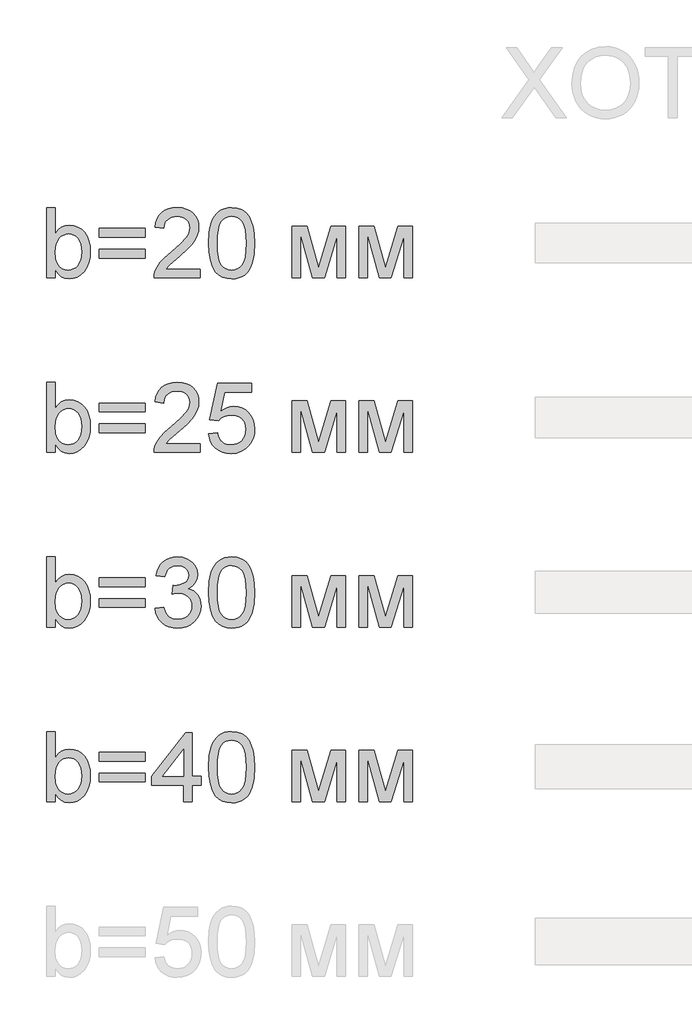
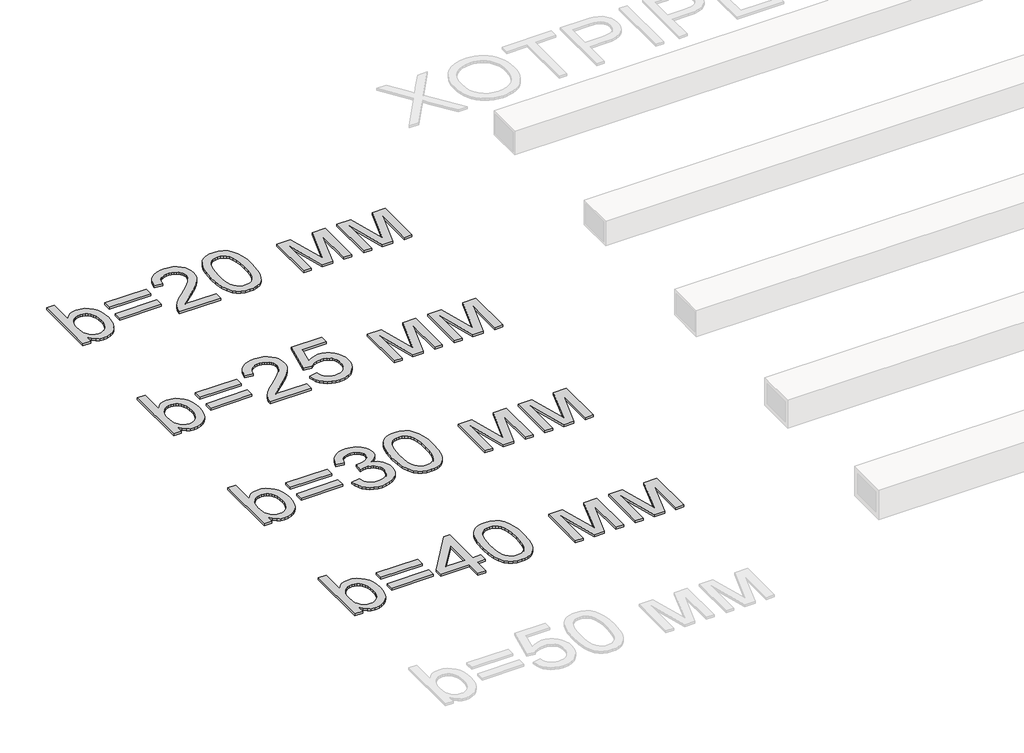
# One storey, part 80 of 86: 4 proxies.
"""IFC4 building model written with IfcOpenShell, lengths in millimetres."""

import ifcopenshell
import ifcopenshell.guid

model = None  # the IFC model being written
_history = None  # IfcOwnerHistory: only IFC2X3 demands one
_inside = {}  # id of a spatial element -> (the spatial element, [elements in it])
_under = {}  # id of a project, library or spatial element -> (it, [spatial elements below it])
_declared = {}  # id of a project -> (the project, [libraries it declares])
_typed = {}  # id of a type object -> (the type object, [elements of that type])
_made_of = {}  # id of a material, layer set ... -> (it, [elements and type objects made of it])


def new_model(schema):
    """Start an empty IFC model of exactly this schema.

    Asked for "IFC4X3", IfcOpenShell would pick the latest addendum, in which some entities
    have other attributes; the version numbers below select the first issue.
    IFC2X3 requires an IfcOwnerHistory on every rooted entity: one is made here for all.
    """
    global model, _history
    if schema == "IFC4X3":
        model = ifcopenshell.file(schema_version=(4, 3, 0, 0))
    else:
        model = ifcopenshell.file(schema=schema)
    _inside.clear()
    _under.clear()
    _declared.clear()
    _typed.clear()
    _made_of.clear()
    _history = None
    if model.schema == "IFC2X3":
        org = make("IfcOrganization", Name="unknown")
        user = make(
            "IfcPersonAndOrganization",
            ThePerson=make("IfcPerson", FamilyName="unknown"),
            TheOrganization=org,
        )
        app = make(
            "IfcApplication",
            ApplicationDeveloper=org,
            Version="unknown",
            ApplicationFullName="unknown",
            ApplicationIdentifier="unknown",
        )
        _history = make(
            "IfcOwnerHistory",
            OwningUser=user,
            OwningApplication=app,
            ChangeAction="ADDED",
            CreationDate=0,
        )
    return model


def make(cls, **values):
    """One entity of the class cls with the attributes given. An attribute that is None is left unset."""
    return model.create_entity(
        cls, **{name: value for name, value in values.items() if value is not None}
    )


def rooted(cls, **values):
    """An entity with a GlobalId (a new one), such as an element, a storey or a relation."""
    return make(cls, GlobalId=ifcopenshell.guid.new(), OwnerHistory=_history, **values)


def si_unit(unit_type, name, prefix=None):
    """IfcSIUnit, for example si_unit("LENGTHUNIT", "METRE", prefix="MILLI")."""
    return make("IfcSIUnit", UnitType=unit_type, Prefix=prefix, Name=name)


def assignment(units):
    """IfcUnitAssignment: the units of a project."""
    return None if units is None else make("IfcUnitAssignment", Units=units)


def point(xyz):
    """IfcCartesianPoint."""
    return None if xyz is None else make("IfcCartesianPoint", Coordinates=xyz)


def direction(xyz):
    """IfcDirection."""
    return None if xyz is None else make("IfcDirection", DirectionRatios=xyz)


def frame(location, z_axis=None, x_axis=None):
    """IfcAxis2Placement3D, a coordinate frame: its origin and axes. An axis left out is left unset."""
    return make(
        "IfcAxis2Placement3D",
        Location=point(location),
        Axis=direction(z_axis),
        RefDirection=direction(x_axis),
    )


def origin():
    """The frame at (0, 0, 0) with its axes left unset."""
    return frame((0.0, 0.0, 0.0))


def origin_with_axes():
    """The frame at (0, 0, 0) with the z axis (0, 0, 1) and the x axis (1, 0, 0) written out."""
    return frame((0.0, 0.0, 0.0), z_axis=(0.0, 0.0, 1.0), x_axis=(1.0, 0.0, 0.0))


def place(relative_to, where):
    """IfcLocalPlacement: puts the frame where relative to a parent placement (None: the world)."""
    return make(
        "IfcLocalPlacement", PlacementRelTo=relative_to, RelativePlacement=where
    )


def context(
    kind, dimensions, precision=None, world=None, true_north=None, identifier=None
):
    """IfcGeometricRepresentationContext, for example the 3D "Model" context."""
    return make(
        "IfcGeometricRepresentationContext",
        ContextIdentifier=identifier,
        ContextType=kind,
        CoordinateSpaceDimension=dimensions,
        Precision=precision,
        WorldCoordinateSystem=world,
        TrueNorth=true_north,
    )


def project(units=None, contexts=None):
    """IfcProject with its units and contexts."""
    return rooted(
        "IfcProject",
        Name="project",
        RepresentationContexts=contexts,
        UnitsInContext=assignment(units),
    )


def spatial(cls, under=None, at=None, **own):
    """A site, building, storey or space (cls), placed at a placement, below another one or the project."""
    s = rooted(cls, ObjectPlacement=at, **own)
    if under is not None:
        _under.setdefault(under.id(), (under, []))[1].append(s)
    return s


def polyline(points):
    """IfcPolyline through the points."""
    return make("IfcPolyline", Points=[point(p) for p in points])


def outline(outer, holes=None, kind="AREA"):
    """IfcArbitraryClosedProfileDef: a profile drawn as a closed curve; with holes, ...WithVoids."""
    if holes is None:
        return make("IfcArbitraryClosedProfileDef", ProfileType=kind, OuterCurve=outer)
    return make(
        "IfcArbitraryProfileDefWithVoids",
        ProfileType=kind,
        OuterCurve=outer,
        InnerCurves=holes,
    )


def extrude(swept, where, along, depth):
    """IfcExtrudedAreaSolid: the profile swept, set in the frame where, extruded along a direction by depth."""
    return make(
        "IfcExtrudedAreaSolid",
        SweptArea=swept,
        Position=where,
        ExtrudedDirection=direction(along),
        Depth=depth,
    )


def shape(context_of_items, identifier, shape_type, items):
    """IfcShapeRepresentation: the items that make up one representation, for example the "Body"."""
    return make(
        "IfcShapeRepresentation",
        ContextOfItems=context_of_items,
        RepresentationIdentifier=identifier,
        RepresentationType=shape_type,
        Items=items,
    )


def made_of(thing, what):
    """Note that an element or type object is made of a material, layer set ...; save() writes the relation."""
    if what is not None:
        _made_of.setdefault(what.id(), (what, []))[1].append(thing)
    return thing


def element(
    cls,
    number,
    at=None,
    inside=None,
    cuts=None,
    type_object=None,
    material=None,
    context=None,
    identifier="Body",
    shape_type=None,
    held_by="IfcProductDefinitionShape",
    body=None,
    shapes=None,
    **own,
):
    """One element of the class cls, such as IfcWall. Its Tag is "e" and its number.

    at: its placement. inside: the storey or other place that contains it. cuts: it is an
    opening in that element (IfcRelVoidsElement). A single representation is given by context,
    identifier, shape_type and body (its items); several are given by shapes. held_by: the class
    of the entity that holds the representations. save() writes the other relations.
    """
    e = rooted(cls, Tag="e%d" % number, ObjectPlacement=at, **own)
    if body is not None:
        shapes = [shape(context, identifier, shape_type, body)]
    if shapes is not None:
        e.Representation = make(held_by, Representations=shapes)
    if inside is not None:
        _inside.setdefault(inside.id(), (inside, []))[1].append(e)
    if cuts is not None:
        rooted(
            "IfcRelVoidsElement", RelatingBuildingElement=cuts, RelatedOpeningElement=e
        )
    if type_object is not None:
        _typed.setdefault(type_object.id(), (type_object, []))[1].append(e)
    return made_of(e, material)


def aggregate(whole, parts):
    """IfcRelAggregates: a whole, such as a stair, and the parts it consists of."""
    return rooted("IfcRelAggregates", RelatingObject=whole, RelatedObjects=parts)


def save(model, path):
    """Write the relations noted so far, then the file.

    IfcRelAggregates (storeys below a building ...), IfcRelContainedInSpatialStructure (elements
    in a storey), IfcRelDefinesByType, IfcRelAssociatesMaterial and IfcRelDeclares: one each for
    every whole, place, type object, material and project.
    """
    for whole, parts in _under.values():
        aggregate(whole, parts)
    for where, things in _inside.values():
        rooted(
            "IfcRelContainedInSpatialStructure",
            RelatedElements=things,
            RelatingStructure=where,
        )
    for kind, things in _typed.values():
        rooted("IfcRelDefinesByType", RelatedObjects=things, RelatingType=kind)
    for what, things in _made_of.values():
        rooted("IfcRelAssociatesMaterial", RelatedObjects=things, RelatingMaterial=what)
    for by, libraries in _declared.values():
        rooted("IfcRelDeclares", RelatingContext=by, RelatedDefinitions=libraries)
    model.write(path)


model = new_model("IFC4")

# Units and contexts
model_context = context("Model", 3, world=origin())
ifc_project = project(units=[si_unit("LENGTHUNIT", "METRE", prefix="MILLI")], contexts=[model_context])

# Site, building, storey
site = spatial("IfcSite", under=ifc_project)
building = spatial("IfcBuilding", under=site)
storey = spatial("IfcBuildingStorey", under=building, Name="Уровень 1", Elevation=0.0)

# Proxies
placement = place(None, origin())
element("IfcBuildingElementProxy", 1, Name="Текст модели 1", ObjectType="Текст модели 1", at=placement, inside=storey, context=model_context, shape_type="SweptSolid", body=[
    extrude(outline(polyline([(89771.0068445, 89169.2937088), (89695.6646119, 89169.2937088), (89695.6646119, 89772.0315697), (89771.0068445, 89772.0315697), (89771.0068445, 89548.5064694), (89795.7836969, 89580.3742473), (89823.7611226, 89603.1369457), (89854.9391217, 89616.7945648), (89889.3176942, 89621.3471045), (89928.1292447, 89617.2452202), (89964.8070796, 89604.9395675), (89997.2542716, 89585.2026984), (90023.3738932, 89558.8071653), (90043.8465263, 89526.0104854), (90059.3527524, 89487.0701762), (90069.1200193, 89443.6049185), (90072.375775, 89397.233393), (90069.0050562, 89343.7249568), (90058.8928999, 89296.6544555), (90042.039306, 89256.0218892), (90018.4442745, 89221.8272577), (89990.1219594, 89194.7235517), (89959.0865146, 89175.3637617), (89925.33794, 89163.7478877), (89888.8762358, 89159.8759297), (89853.3664262, 89164.8699278), (89821.8849245, 89179.8519221), (89794.4317306, 89204.8219125), (89771.0068445, 89239.7798991), (89771.0068445, 89169.2937088)]), holes=[polyline([(89771.0068445, 89393.7017259), (89776.1571925, 89330.8674811), (89782.5951274, 89307.065516), (89791.6082363, 89288.3403224), (89809.8643803, 89265.0993774), (89831.0819744, 89248.4987024), (89855.2610185, 89238.5382973), (89882.4015127, 89235.2181623), (89904.9342849, 89237.6645776), (89925.8851645, 89245.0038234), (89945.2541516, 89257.2358997), (89963.041246, 89274.3608066), (89977.9128757, 89296.3325588), (89988.5354683, 89323.105171), (89994.9090239, 89354.6786432), (89997.0335424, 89391.0529755), (89994.9963958, 89428.1170865), (89988.8849562, 89459.9940614), (89978.6992234, 89486.6839001), (89964.4391976, 89508.1866028), (89947.2912981, 89524.7320955), (89928.4419444, 89536.5503046), (89907.8911364, 89543.64123), (89885.6388742, 89546.0048719), (89863.106102, 89543.5584566), (89842.1552224, 89536.2192108), (89822.7862354, 89523.9871344), (89804.9991409, 89506.8622276), (89790.1275112, 89485.1112046), (89779.5049186, 89459.00078), (89773.1313631, 89428.5309538), (89771.0068445, 89393.7017259)])]), origin_with_axes(), (0.0, 0.0, 1.0), 20.0),
    extrude(outline(polyline([(90543.2647288, 89517.7515346), (90147.7180076, 89517.7515346), (90147.7180076, 89593.0937672), (90543.2647288, 89593.0937672), (90543.2647288, 89517.7515346)])), origin_with_axes(), (0.0, 0.0, 1.0), 20.0),
    extrude(outline(polyline([(90543.2647288, 89338.8137322), (90147.7180076, 89338.8137322), (90147.7180076, 89414.1559648), (90543.2647288, 89414.1559648), (90543.2647288, 89338.8137322)])), origin_with_axes(), (0.0, 0.0, 1.0), 20.0),
    extrude(outline(polyline([(91014.1536826, 89244.6359414), (91014.1536826, 89169.2937088), (90618.6069614, 89169.2937088), (90620.2624304, 89195.8180007), (90626.7003653, 89221.2386465), (90645.2784061, 89261.8344247), (90672.4648855, 89301.2161923), (90711.7914708, 89342.4373698), (90766.7898291, 89388.5513779), (90848.09175, 89460.7666136), (90896.8729026, 89514.0727147), (90911.1007387, 89535.8513288), (90921.2634789, 89557.3356373), (90927.3611229, 89578.5256402), (90929.393671, 89599.4213376), (90927.4760861, 89619.0800317), (90921.7233314, 89637.1476362), (90912.1354069, 89653.624151), (90898.7123126, 89668.5095763), (90882.1990095, 89680.8382216), (90863.3404587, 89689.6443969), (90842.1366602, 89694.928102), (90818.587614, 89696.6893371), (90793.778572, 89694.9694888), (90771.5906891, 89689.8099438), (90752.0239655, 89681.2107021), (90735.0784011, 89669.1717638), (90721.3701983, 89654.0977991), (90711.5155593, 89636.3934781), (90705.5144843, 89616.0588008), (90703.3669731, 89593.0937672), (90628.0247405, 89602.5115463), (90634.5040621, 89641.4058703), (90646.2900816, 89675.3889696), (90663.3827988, 89704.4608442), (90685.7822137, 89728.6214943), (90712.9732917, 89747.6134023), (90744.4409979, 89761.1790508), (90780.1853322, 89769.31844), (90820.2062948, 89772.0315697), (90860.5859423, 89769.0149373), (90896.5234147, 89759.9650403), (90928.018712, 89744.8818785), (90955.0718342, 89723.7654519), (90976.7998646, 89698.1792592), (90992.3198862, 89669.6867986), (91001.6318992, 89638.2880704), (91004.7359036, 89603.9830743), (91001.3881774, 89567.9490329), (90991.3449989, 89532.5403908), (90973.5211163, 89496.5247435), (90946.8312775, 89458.6696862), (90904.2857248, 89413.4753831), (90838.8947001, 89355.4419984), (90752.2217021, 89282.9692453), (90718.2294057, 89244.6359414), (91014.1536826, 89244.6359414)])), origin_with_axes(), (0.0, 0.0, 1.0), 20.0),
    extrude(outline(polyline([(91089.4959153, 89465.8065969), (91095.0325393, 89562.2836501), (91101.9533193, 89603.1967265), (91111.6424114, 89639.2261694), (91124.0584287, 89670.6662845), (91139.1599846, 89697.8113772), (91156.9470791, 89720.6614476), (91177.4197121, 89739.2164957), (91200.6468616, 89753.5730906), (91226.6975054, 89763.8278012), (91255.5716435, 89769.9806276), (91287.2692759, 89772.0315697), (91333.6959837, 89767.1755274), (91375.2666491, 89752.6074004), (91410.0314977, 89728.8974058), (91436.0407547, 89696.6157607), (91455.6856533, 89656.0383766), (91471.3574262, 89607.4411651), (91481.6213339, 89545.7289604), (91485.0426365, 89465.8065969), (91479.5611947, 89369.8813667), (91472.7093926, 89329.106246), (91463.1168696, 89293.1227884), (91450.7974212, 89261.6688778), (91435.7648432, 89234.4823983), (91418.0191355, 89211.56335), (91397.560298, 89192.9117329), (91374.3055574, 89178.458569), (91348.1721402, 89168.1348805), (91319.1600463, 89161.9406674), (91287.2692759, 89159.8759297), (91245.7721868, 89163.4627792), (91208.9839873, 89174.2233275), (91176.9046773, 89192.1575748), (91149.5342569, 89217.265521), (91123.2674824, 89262.6529621), (91104.5055007, 89319.2056218), (91093.2483116, 89386.9235001), (91089.4959153, 89465.8065969)]), holes=[polyline([(91164.8381479, 89465.9537497), (91167.0454398, 89400.456959), (91173.6673158, 89347.440565), (91184.7037756, 89306.9045676), (91200.1548194, 89278.848967), (91218.8432248, 89259.7604899), (91239.5917693, 89246.1258635), (91262.400453, 89237.9450876), (91287.2692759, 89235.2181623), (91312.1380987, 89237.9542847), (91334.9467824, 89246.1626517), (91355.695327, 89259.8432634), (91374.3837323, 89278.9961198), (91389.8347761, 89307.0977057), (91400.871236, 89347.624506), (91407.4931119, 89400.5765206), (91409.7004039, 89465.9537497), (91407.5666883, 89529.7168965), (91401.1655416, 89581.79979), (91390.4969637, 89622.2024301), (91375.5609547, 89650.9248169), (91357.185249, 89670.9467945), (91336.1975812, 89685.248207), (91312.5979512, 89693.8290546), (91286.3863591, 89696.6893371), (91261.6462949, 89694.1693454), (91239.2238873, 89686.6093704), (91219.1191363, 89674.0094121), (91201.3320418, 89656.3694704), (91185.3659632, 89625.0995008), (91173.9616213, 89582.9402242), (91167.1190162, 89529.8916405), (91164.8381479, 89465.9537497)])]), origin_with_axes(), (0.0, 0.0, 1.0), 20.0),
    extrude(outline(polyline([(91805.2471251, 89611.9293254), (91934.8887402, 89611.9293254), (92034.8054901, 89257.5853876), (92142.5213382, 89611.9293254), (92266.7182998, 89611.9293254), (92266.7182998, 89169.2937088), (92191.3760672, 89169.2937088), (92191.3760672, 89525.6977857), (92083.0716078, 89169.2937088), (91984.1849275, 89169.2937088), (91880.5893577, 89542.7675103), (91880.5893577, 89169.2937088), (91805.2471251, 89169.2937088), (91805.2471251, 89611.9293254)])), origin_with_axes(), (0.0, 0.0, 1.0), 20.0),
    extrude(outline(polyline([(92379.7316487, 89611.9293254), (92509.3732638, 89611.9293254), (92609.2900137, 89257.5853876), (92717.0058619, 89611.9293254), (92841.2028235, 89611.9293254), (92841.2028235, 89169.2937088), (92765.8605909, 89169.2937088), (92765.8605909, 89525.6977857), (92657.5561315, 89169.2937088), (92558.6694512, 89169.2937088), (92455.0738813, 89542.7675103), (92455.0738813, 89169.2937088), (92379.7316487, 89169.2937088), (92379.7316487, 89611.9293254)])), origin_with_axes(), (0.0, 0.0, 1.0), 20.0),
])
element("IfcBuildingElementProxy", 2, Name="Текст модели 1", ObjectType="Текст модели 1", at=placement, inside=storey, context=model_context, shape_type="SweptSolid", body=[
    extrude(outline(polyline([(89771.0068445, 87669.2937088), (89695.6646119, 87669.2937088), (89695.6646119, 88272.0315697), (89771.0068445, 88272.0315697), (89771.0068445, 88048.5064694), (89795.7836969, 88080.3742473), (89823.7611226, 88103.1369457), (89854.9391217, 88116.7945648), (89889.3176942, 88121.3471045), (89928.1292447, 88117.2452202), (89964.8070796, 88104.9395675), (89997.2542716, 88085.2026984), (90023.3738932, 88058.8071653), (90043.8465263, 88026.0104854), (90059.3527524, 87987.0701762), (90069.1200193, 87943.6049185), (90072.375775, 87897.233393), (90069.0050562, 87843.7249568), (90058.8928999, 87796.6544555), (90042.039306, 87756.0218892), (90018.4442745, 87721.8272577), (89990.1219594, 87694.7235517), (89959.0865146, 87675.3637617), (89925.33794, 87663.7478877), (89888.8762358, 87659.8759297), (89853.3664262, 87664.8699278), (89821.8849245, 87679.8519221), (89794.4317306, 87704.8219125), (89771.0068445, 87739.7798991), (89771.0068445, 87669.2937088)]), holes=[polyline([(89771.0068445, 87893.7017259), (89776.1571925, 87830.8674811), (89782.5951274, 87807.065516), (89791.6082363, 87788.3403224), (89809.8643803, 87765.0993774), (89831.0819744, 87748.4987024), (89855.2610185, 87738.5382973), (89882.4015127, 87735.2181623), (89904.9342849, 87737.6645776), (89925.8851645, 87745.0038234), (89945.2541516, 87757.2358997), (89963.041246, 87774.3608066), (89977.9128757, 87796.3325588), (89988.5354683, 87823.105171), (89994.9090239, 87854.6786432), (89997.0335424, 87891.0529755), (89994.9963958, 87928.1170865), (89988.8849562, 87959.9940614), (89978.6992234, 87986.6839001), (89964.4391976, 88008.1866028), (89947.2912981, 88024.7320955), (89928.4419444, 88036.5503046), (89907.8911364, 88043.64123), (89885.6388742, 88046.0048719), (89863.106102, 88043.5584566), (89842.1552224, 88036.2192108), (89822.7862354, 88023.9871344), (89804.9991409, 88006.8622276), (89790.1275112, 87985.1112046), (89779.5049186, 87959.00078), (89773.1313631, 87928.5309538), (89771.0068445, 87893.7017259)])]), origin_with_axes(), (0.0, 0.0, 1.0), 20.0),
    extrude(outline(polyline([(90543.2647288, 88017.7515346), (90147.7180076, 88017.7515346), (90147.7180076, 88093.0937672), (90543.2647288, 88093.0937672), (90543.2647288, 88017.7515346)])), origin_with_axes(), (0.0, 0.0, 1.0), 20.0),
    extrude(outline(polyline([(90543.2647288, 87838.8137322), (90147.7180076, 87838.8137322), (90147.7180076, 87914.1559648), (90543.2647288, 87914.1559648), (90543.2647288, 87838.8137322)])), origin_with_axes(), (0.0, 0.0, 1.0), 20.0),
    extrude(outline(polyline([(91014.1536826, 87744.6359414), (91014.1536826, 87669.2937088), (90618.6069614, 87669.2937088), (90620.2624304, 87695.8180007), (90626.7003653, 87721.2386465), (90645.2784061, 87761.8344247), (90672.4648855, 87801.2161923), (90711.7914708, 87842.4373698), (90766.7898291, 87888.5513779), (90848.09175, 87960.7666136), (90896.8729026, 88014.0727147), (90911.1007387, 88035.8513288), (90921.2634789, 88057.3356373), (90927.3611229, 88078.5256402), (90929.393671, 88099.4213376), (90927.4760861, 88119.0800317), (90921.7233314, 88137.1476362), (90912.1354069, 88153.624151), (90898.7123126, 88168.5095763), (90882.1990095, 88180.8382216), (90863.3404587, 88189.6443969), (90842.1366602, 88194.928102), (90818.587614, 88196.6893371), (90793.778572, 88194.9694888), (90771.5906891, 88189.8099438), (90752.0239655, 88181.2107021), (90735.0784011, 88169.1717638), (90721.3701983, 88154.0977991), (90711.5155593, 88136.3934781), (90705.5144843, 88116.0588008), (90703.3669731, 88093.0937672), (90628.0247405, 88102.5115463), (90634.5040621, 88141.4058703), (90646.2900816, 88175.3889696), (90663.3827988, 88204.4608442), (90685.7822137, 88228.6214943), (90712.9732917, 88247.6134023), (90744.4409979, 88261.1790508), (90780.1853322, 88269.31844), (90820.2062948, 88272.0315697), (90860.5859423, 88269.0149373), (90896.5234147, 88259.9650403), (90928.018712, 88244.8818785), (90955.0718342, 88223.7654519), (90976.7998646, 88198.1792592), (90992.3198862, 88169.6867986), (91001.6318992, 88138.2880704), (91004.7359036, 88103.9830743), (91001.3881774, 88067.9490329), (90991.3449989, 88032.5403908), (90973.5211163, 87996.5247435), (90946.8312775, 87958.6696862), (90904.2857248, 87913.4753831), (90838.8947001, 87855.4419984), (90752.2217021, 87782.9692453), (90718.2294057, 87744.6359414), (91014.1536826, 87744.6359414)])), origin_with_axes(), (0.0, 0.0, 1.0), 20.0),
    extrude(outline(polyline([(91089.4959153, 87829.3959531), (91164.8381479, 87838.8137322), (91170.4667424, 87814.5933013), (91178.6705109, 87793.5826409), (91189.4494533, 87775.7817508), (91202.8035698, 87761.1906312), (91218.705269, 87749.8276761), (91237.1269599, 87741.7112795), (91258.0686425, 87736.8414416), (91281.5303167, 87735.2181623), (91310.2251124, 87737.4760381), (91335.5353936, 87744.2496653), (91357.4611605, 87755.539044), (91376.0024131, 87771.3441743), (91390.7452841, 87790.8833067), (91401.2759062, 87813.3746922), (91407.5942794, 87838.8183307), (91409.7004039, 87867.2142222), (91407.7276367, 87894.0512138), (91401.8093351, 87917.9083611), (91391.9454991, 87938.7856644), (91378.1361287, 87956.6831234), (91360.3352386, 87971.0397183), (91338.4968437, 87981.2944289), (91312.6209439, 87987.4472553), (91282.7075391, 87989.4981974), (91246.1584629, 87986.2240476), (91216.5623564, 87976.4015984), (91192.9259382, 87961.3552248), (91174.2559269, 87942.409302), (91098.9136943, 87951.8270811), (91164.8381479, 88262.6137906), (91456.7892992, 88262.6137906), (91456.7892992, 88187.271558), (91225.7594063, 88187.271558), (91193.5329435, 88021.2832018), (91220.1216147, 88040.3394891), (91247.3540794, 88053.951123), (91275.2303376, 88062.1181032), (91303.7503892, 88064.84043), (91340.4420197, 88061.4651127), (91374.144609, 88051.3391608), (91404.8581571, 88034.4625743), (91432.582664, 88010.8353531), (91455.5339019, 87981.9014342), (91471.9276433, 87949.1047543), (91481.7638882, 87912.4453135), (91485.0426365, 87871.9231117), (91482.0903835, 87832.8908321), (91473.2336244, 87796.5808791), (91458.4723594, 87762.993253), (91437.8065883, 87732.1279536), (91406.4998305, 87700.5176931), (91369.9691484, 87677.9389357), (91328.2145419, 87664.3916812), (91281.2360111, 87659.8759297), (91242.3554828, 87662.777599), (91207.2365478, 87671.4826067), (91175.8792062, 87685.9909529), (91148.2834581, 87706.3026375), (91125.3230231, 87731.4059852), (91107.8716209, 87760.2893203), (91095.9292516, 87792.952643), (91089.4959153, 87829.3959531)])), origin_with_axes(), (0.0, 0.0, 1.0), 20.0),
    extrude(outline(polyline([(91805.2471251, 88111.9293254), (91934.8887402, 88111.9293254), (92034.8054901, 87757.5853876), (92142.5213382, 88111.9293254), (92266.7182998, 88111.9293254), (92266.7182998, 87669.2937088), (92191.3760672, 87669.2937088), (92191.3760672, 88025.6977857), (92083.0716078, 87669.2937088), (91984.1849275, 87669.2937088), (91880.5893577, 88042.7675103), (91880.5893577, 87669.2937088), (91805.2471251, 87669.2937088), (91805.2471251, 88111.9293254)])), origin_with_axes(), (0.0, 0.0, 1.0), 20.0),
    extrude(outline(polyline([(92379.7316487, 88111.9293254), (92509.3732638, 88111.9293254), (92609.2900137, 87757.5853876), (92717.0058619, 88111.9293254), (92841.2028235, 88111.9293254), (92841.2028235, 87669.2937088), (92765.8605909, 87669.2937088), (92765.8605909, 88025.6977857), (92657.5561315, 87669.2937088), (92558.6694512, 87669.2937088), (92455.0738813, 88042.7675103), (92455.0738813, 87669.2937088), (92379.7316487, 87669.2937088), (92379.7316487, 88111.9293254)])), origin_with_axes(), (0.0, 0.0, 1.0), 20.0),
])
element("IfcBuildingElementProxy", 3, Name="Текст модели 1", ObjectType="Текст модели 1", at=placement, inside=storey, context=model_context, shape_type="SweptSolid", body=[
    extrude(outline(polyline([(89771.0068445, 86169.2937088), (89695.6646119, 86169.2937088), (89695.6646119, 86772.0315697), (89771.0068445, 86772.0315697), (89771.0068445, 86548.5064694), (89795.7836969, 86580.3742473), (89823.7611226, 86603.1369457), (89854.9391217, 86616.7945648), (89889.3176942, 86621.3471045), (89928.1292447, 86617.2452202), (89964.8070796, 86604.9395675), (89997.2542716, 86585.2026984), (90023.3738932, 86558.8071653), (90043.8465263, 86526.0104854), (90059.3527524, 86487.0701762), (90069.1200193, 86443.6049185), (90072.375775, 86397.233393), (90069.0050562, 86343.7249568), (90058.8928999, 86296.6544555), (90042.039306, 86256.0218892), (90018.4442745, 86221.8272577), (89990.1219594, 86194.7235517), (89959.0865146, 86175.3637617), (89925.33794, 86163.7478877), (89888.8762358, 86159.8759297), (89853.3664262, 86164.8699278), (89821.8849245, 86179.8519221), (89794.4317306, 86204.8219125), (89771.0068445, 86239.7798991), (89771.0068445, 86169.2937088)]), holes=[polyline([(89771.0068445, 86393.7017259), (89776.1571925, 86330.8674811), (89782.5951274, 86307.065516), (89791.6082363, 86288.3403224), (89809.8643803, 86265.0993774), (89831.0819744, 86248.4987024), (89855.2610185, 86238.5382973), (89882.4015127, 86235.2181623), (89904.9342849, 86237.6645776), (89925.8851645, 86245.0038234), (89945.2541516, 86257.2358997), (89963.041246, 86274.3608066), (89977.9128757, 86296.3325588), (89988.5354683, 86323.105171), (89994.9090239, 86354.6786432), (89997.0335424, 86391.0529755), (89994.9963958, 86428.1170865), (89988.8849562, 86459.9940614), (89978.6992234, 86486.6839001), (89964.4391976, 86508.1866028), (89947.2912981, 86524.7320955), (89928.4419444, 86536.5503046), (89907.8911364, 86543.64123), (89885.6388742, 86546.0048719), (89863.106102, 86543.5584566), (89842.1552224, 86536.2192108), (89822.7862354, 86523.9871344), (89804.9991409, 86506.8622276), (89790.1275112, 86485.1112046), (89779.5049186, 86459.00078), (89773.1313631, 86428.5309538), (89771.0068445, 86393.7017259)])]), origin_with_axes(), (0.0, 0.0, 1.0), 20.0),
    extrude(outline(polyline([(90543.2647288, 86517.7515346), (90147.7180076, 86517.7515346), (90147.7180076, 86593.0937672), (90543.2647288, 86593.0937672), (90543.2647288, 86517.7515346)])), origin_with_axes(), (0.0, 0.0, 1.0), 20.0),
    extrude(outline(polyline([(90543.2647288, 86338.8137322), (90147.7180076, 86338.8137322), (90147.7180076, 86414.1559648), (90543.2647288, 86414.1559648), (90543.2647288, 86338.8137322)])), origin_with_axes(), (0.0, 0.0, 1.0), 20.0),
    extrude(outline(polyline([(90628.0247405, 86329.3959531), (90703.3669731, 86338.8137322), (90720.2343626, 86291.4673194), (90731.6065148, 86273.5606633), (90744.9376386, 86259.498374), (90760.5312366, 86248.8757814), (90778.6908116, 86241.2882153), (90799.4163635, 86236.7356756), (90822.7078924, 86235.2181623), (90850.0047364, 86237.3058927), (90874.3585245, 86243.5690836), (90895.7692566, 86254.0077352), (90914.2369328, 86268.6218475), (90929.1085624, 86286.3169715), (90939.731155, 86305.9986582), (90946.1047106, 86327.6669077), (90948.2292291, 86351.32172), (90946.1231047, 86373.8498937), (90939.8047314, 86394.3455193), (90929.2741093, 86412.808597), (90914.5312383, 86429.2391266), (90896.5418088, 86442.7266002), (90876.2715108, 86452.36051), (90853.7203445, 86458.1408558), (90828.8883099, 86460.0676378), (90805.0863448, 86458.0074986), (90776.0604554, 86451.8270811), (90784.4481649, 86527.1693137), (90796.5146943, 86526.2863969), (90841.6538151, 86531.6942622), (90882.01047, 86547.9178582), (90898.6203421, 86560.1867228), (90910.4845364, 86575.3618551), (90917.603053, 86593.4432551), (90919.9758919, 86614.430923), (90918.2560435, 86631.4684579), (90913.0964986, 86646.9700854), (90904.4972569, 86660.9358057), (90892.4583186, 86673.3656186), (90877.7062506, 86683.5697454), (90860.9676198, 86690.8584075), (90821.53067, 86696.6893371), (90800.8740959, 86695.2178091), (90782.0201437, 86690.8032252), (90764.9688132, 86683.4455853), (90749.7201045, 86673.1448894), (90736.6510966, 86659.9011376), (90726.1388686, 86643.7143298), (90718.1834205, 86624.584466), (90712.7847522, 86602.5115463), (90637.4425196, 86611.9293254), (90646.372855, 86647.8989875), (90659.6258039, 86679.5828243), (90677.2013662, 86706.9808359), (90699.099542, 86730.0930222), (90724.6305524, 86748.4411368), (90753.1046189, 86761.5469328), (90784.5217413, 86769.4104105), (90818.8819196, 86772.0315697), (90866.2467265, 86766.8628277), (90909.7487724, 86751.3566016), (90946.4266073, 86726.8924489), (90973.3187812, 86694.8499271), (90989.8182887, 86657.9329689), (90995.3181245, 86618.8455069), (90990.0942002, 86582.4251894), (90974.4224272, 86549.3893862), (90948.5235347, 86521.2464136), (90912.618252, 86499.5045877), (90937.7261981, 86491.6503071), (90959.7807238, 86480.4483003), (90978.7818288, 86465.8985674), (90994.7295133, 86448.0011083), (91007.3478657, 86427.1973815), (91016.3609746, 86403.9288453), (91021.7688399, 86378.1954998), (91023.5714617, 86349.9973448), (91019.9662182, 86311.7744055), (91009.1504875, 86276.5680986), (90991.1242697, 86244.378424), (90965.8875649, 86215.2053818), (90935.1418271, 86190.9987465), (90900.5885107, 86173.7082927), (90862.2276157, 86163.3340205), (90820.059142, 86159.8759297), (90781.9465673, 86162.8281827), (90747.2185069, 86171.6849418), (90715.874961, 86186.4462068), (90687.9159293, 86207.1119779), (90664.4726492, 86232.4682444), (90646.6763577, 86261.3009958), (90634.5270548, 86293.610232), (90628.0247405, 86329.3959531)])), origin_with_axes(), (0.0, 0.0, 1.0), 20.0),
    extrude(outline(polyline([(91089.4959153, 86465.8065969), (91095.0325393, 86562.2836501), (91101.9533193, 86603.1967265), (91111.6424114, 86639.2261694), (91124.0584287, 86670.6662845), (91139.1599846, 86697.8113772), (91156.9470791, 86720.6614476), (91177.4197121, 86739.2164957), (91200.6468616, 86753.5730906), (91226.6975054, 86763.8278012), (91255.5716435, 86769.9806276), (91287.2692759, 86772.0315697), (91333.6959837, 86767.1755274), (91375.2666491, 86752.6074004), (91410.0314977, 86728.8974058), (91436.0407547, 86696.6157607), (91455.6856533, 86656.0383766), (91471.3574262, 86607.4411651), (91481.6213339, 86545.7289604), (91485.0426365, 86465.8065969), (91479.5611947, 86369.8813667), (91472.7093926, 86329.106246), (91463.1168696, 86293.1227884), (91450.7974212, 86261.6688778), (91435.7648432, 86234.4823983), (91418.0191355, 86211.56335), (91397.560298, 86192.9117329), (91374.3055574, 86178.458569), (91348.1721402, 86168.1348805), (91319.1600463, 86161.9406674), (91287.2692759, 86159.8759297), (91245.7721868, 86163.4627792), (91208.9839873, 86174.2233275), (91176.9046773, 86192.1575748), (91149.5342569, 86217.265521), (91123.2674824, 86262.6529621), (91104.5055007, 86319.2056218), (91093.2483116, 86386.9235001), (91089.4959153, 86465.8065969)]), holes=[polyline([(91164.8381479, 86465.9537497), (91167.0454398, 86400.456959), (91173.6673158, 86347.440565), (91184.7037756, 86306.9045676), (91200.1548194, 86278.848967), (91218.8432248, 86259.7604899), (91239.5917693, 86246.1258635), (91262.400453, 86237.9450876), (91287.2692759, 86235.2181623), (91312.1380987, 86237.9542847), (91334.9467824, 86246.1626517), (91355.695327, 86259.8432634), (91374.3837323, 86278.9961198), (91389.8347761, 86307.0977057), (91400.871236, 86347.624506), (91407.4931119, 86400.5765206), (91409.7004039, 86465.9537497), (91407.5666883, 86529.7168965), (91401.1655416, 86581.79979), (91390.4969637, 86622.2024301), (91375.5609547, 86650.9248169), (91357.185249, 86670.9467945), (91336.1975812, 86685.248207), (91312.5979512, 86693.8290546), (91286.3863591, 86696.6893371), (91261.6462949, 86694.1693454), (91239.2238873, 86686.6093704), (91219.1191363, 86674.0094121), (91201.3320418, 86656.3694704), (91185.3659632, 86625.0995008), (91173.9616213, 86582.9402242), (91167.1190162, 86529.8916405), (91164.8381479, 86465.9537497)])]), origin_with_axes(), (0.0, 0.0, 1.0), 20.0),
    extrude(outline(polyline([(91805.2471251, 86611.9293254), (91934.8887402, 86611.9293254), (92034.8054901, 86257.5853876), (92142.5213382, 86611.9293254), (92266.7182998, 86611.9293254), (92266.7182998, 86169.2937088), (92191.3760672, 86169.2937088), (92191.3760672, 86525.6977857), (92083.0716078, 86169.2937088), (91984.1849275, 86169.2937088), (91880.5893577, 86542.7675103), (91880.5893577, 86169.2937088), (91805.2471251, 86169.2937088), (91805.2471251, 86611.9293254)])), origin_with_axes(), (0.0, 0.0, 1.0), 20.0),
    extrude(outline(polyline([(92379.7316487, 86611.9293254), (92509.3732638, 86611.9293254), (92609.2900137, 86257.5853876), (92717.0058619, 86611.9293254), (92841.2028235, 86611.9293254), (92841.2028235, 86169.2937088), (92765.8605909, 86169.2937088), (92765.8605909, 86525.6977857), (92657.5561315, 86169.2937088), (92558.6694512, 86169.2937088), (92455.0738813, 86542.7675103), (92455.0738813, 86169.2937088), (92379.7316487, 86169.2937088), (92379.7316487, 86611.9293254)])), origin_with_axes(), (0.0, 0.0, 1.0), 20.0),
])
element("IfcBuildingElementProxy", 4, Name="Текст модели 1", ObjectType="Текст модели 1", at=placement, inside=storey, context=model_context, shape_type="SweptSolid", body=[
    extrude(outline(polyline([(89771.0068445, 84669.2937088), (89695.6646119, 84669.2937088), (89695.6646119, 85272.0315697), (89771.0068445, 85272.0315697), (89771.0068445, 85048.5064694), (89795.7836969, 85080.3742473), (89823.7611226, 85103.1369457), (89854.9391217, 85116.7945648), (89889.3176942, 85121.3471045), (89928.1292447, 85117.2452202), (89964.8070796, 85104.9395675), (89997.2542716, 85085.2026984), (90023.3738932, 85058.8071653), (90043.8465263, 85026.0104854), (90059.3527524, 84987.0701762), (90069.1200193, 84943.6049185), (90072.375775, 84897.233393), (90069.0050562, 84843.7249568), (90058.8928999, 84796.6544555), (90042.039306, 84756.0218892), (90018.4442745, 84721.8272577), (89990.1219594, 84694.7235517), (89959.0865146, 84675.3637617), (89925.33794, 84663.7478877), (89888.8762358, 84659.8759297), (89853.3664262, 84664.8699278), (89821.8849245, 84679.8519221), (89794.4317306, 84704.8219125), (89771.0068445, 84739.7798991), (89771.0068445, 84669.2937088)]), holes=[polyline([(89771.0068445, 84893.7017259), (89776.1571925, 84830.8674811), (89782.5951274, 84807.065516), (89791.6082363, 84788.3403224), (89809.8643803, 84765.0993774), (89831.0819744, 84748.4987024), (89855.2610185, 84738.5382973), (89882.4015127, 84735.2181623), (89904.9342849, 84737.6645776), (89925.8851645, 84745.0038234), (89945.2541516, 84757.2358997), (89963.041246, 84774.3608066), (89977.9128757, 84796.3325588), (89988.5354683, 84823.105171), (89994.9090239, 84854.6786432), (89997.0335424, 84891.0529755), (89994.9963958, 84928.1170865), (89988.8849562, 84959.9940614), (89978.6992234, 84986.6839001), (89964.4391976, 85008.1866028), (89947.2912981, 85024.7320955), (89928.4419444, 85036.5503046), (89907.8911364, 85043.64123), (89885.6388742, 85046.0048719), (89863.106102, 85043.5584566), (89842.1552224, 85036.2192108), (89822.7862354, 85023.9871344), (89804.9991409, 85006.8622276), (89790.1275112, 84985.1112046), (89779.5049186, 84959.00078), (89773.1313631, 84928.5309538), (89771.0068445, 84893.7017259)])]), origin_with_axes(), (0.0, 0.0, 1.0), 20.0),
    extrude(outline(polyline([(90543.2647288, 85017.7515346), (90147.7180076, 85017.7515346), (90147.7180076, 85093.0937672), (90543.2647288, 85093.0937672), (90543.2647288, 85017.7515346)])), origin_with_axes(), (0.0, 0.0, 1.0), 20.0),
    extrude(outline(polyline([(90543.2647288, 84838.8137322), (90147.7180076, 84838.8137322), (90147.7180076, 84914.1559648), (90543.2647288, 84914.1559648), (90543.2647288, 84838.8137322)])), origin_with_axes(), (0.0, 0.0, 1.0), 20.0),
    extrude(outline(polyline([(90872.8869965, 84669.2937088), (90872.8869965, 84810.5603949), (90599.7714033, 84810.5603949), (90599.7714033, 84885.9026276), (90891.7225546, 85262.6137906), (90948.2292291, 85262.6137906), (90948.2292291, 84885.9026276), (91023.5714617, 84885.9026276), (91023.5714617, 84810.5603949), (90948.2292291, 84810.5603949), (90948.2292291, 84669.2937088), (90872.8869965, 84669.2937088)]), holes=[polyline([(90872.8869965, 84885.9026276), (90872.8869965, 85118.6983541), (90692.4776661, 84885.9026276), (90872.8869965, 84885.9026276)])]), origin_with_axes(), (0.0, 0.0, 1.0), 20.0),
    extrude(outline(polyline([(91089.4959153, 84965.8065969), (91095.0325393, 85062.2836501), (91101.9533193, 85103.1967265), (91111.6424114, 85139.2261694), (91124.0584287, 85170.6662845), (91139.1599846, 85197.8113772), (91156.9470791, 85220.6614476), (91177.4197121, 85239.2164957), (91200.6468616, 85253.5730906), (91226.6975054, 85263.8278012), (91255.5716435, 85269.9806276), (91287.2692759, 85272.0315697), (91333.6959837, 85267.1755274), (91375.2666491, 85252.6074004), (91410.0314977, 85228.8974058), (91436.0407547, 85196.6157607), (91455.6856533, 85156.0383766), (91471.3574262, 85107.4411651), (91481.6213339, 85045.7289604), (91485.0426365, 84965.8065969), (91479.5611947, 84869.8813667), (91472.7093926, 84829.106246), (91463.1168696, 84793.1227884), (91450.7974212, 84761.6688778), (91435.7648432, 84734.4823983), (91418.0191355, 84711.56335), (91397.560298, 84692.9117329), (91374.3055574, 84678.458569), (91348.1721402, 84668.1348805), (91319.1600463, 84661.9406674), (91287.2692759, 84659.8759297), (91245.7721868, 84663.4627792), (91208.9839873, 84674.2233275), (91176.9046773, 84692.1575748), (91149.5342569, 84717.265521), (91123.2674824, 84762.6529621), (91104.5055007, 84819.2056218), (91093.2483116, 84886.9235001), (91089.4959153, 84965.8065969)]), holes=[polyline([(91164.8381479, 84965.9537497), (91167.0454398, 84900.456959), (91173.6673158, 84847.440565), (91184.7037756, 84806.9045676), (91200.1548194, 84778.848967), (91218.8432248, 84759.7604899), (91239.5917693, 84746.1258635), (91262.400453, 84737.9450876), (91287.2692759, 84735.2181623), (91312.1380987, 84737.9542847), (91334.9467824, 84746.1626517), (91355.695327, 84759.8432634), (91374.3837323, 84778.9961198), (91389.8347761, 84807.0977057), (91400.871236, 84847.624506), (91407.4931119, 84900.5765206), (91409.7004039, 84965.9537497), (91407.5666883, 85029.7168965), (91401.1655416, 85081.79979), (91390.4969637, 85122.2024301), (91375.5609547, 85150.9248169), (91357.185249, 85170.9467945), (91336.1975812, 85185.248207), (91312.5979512, 85193.8290546), (91286.3863591, 85196.6893371), (91261.6462949, 85194.1693454), (91239.2238873, 85186.6093704), (91219.1191363, 85174.0094121), (91201.3320418, 85156.3694704), (91185.3659632, 85125.0995008), (91173.9616213, 85082.9402242), (91167.1190162, 85029.8916405), (91164.8381479, 84965.9537497)])]), origin_with_axes(), (0.0, 0.0, 1.0), 20.0),
    extrude(outline(polyline([(91805.2471251, 85111.9293254), (91934.8887402, 85111.9293254), (92034.8054901, 84757.5853876), (92142.5213382, 85111.9293254), (92266.7182998, 85111.9293254), (92266.7182998, 84669.2937088), (92191.3760672, 84669.2937088), (92191.3760672, 85025.6977857), (92083.0716078, 84669.2937088), (91984.1849275, 84669.2937088), (91880.5893577, 85042.7675103), (91880.5893577, 84669.2937088), (91805.2471251, 84669.2937088), (91805.2471251, 85111.9293254)])), origin_with_axes(), (0.0, 0.0, 1.0), 20.0),
    extrude(outline(polyline([(92379.7316487, 85111.9293254), (92509.3732638, 85111.9293254), (92609.2900137, 84757.5853876), (92717.0058619, 85111.9293254), (92841.2028235, 85111.9293254), (92841.2028235, 84669.2937088), (92765.8605909, 84669.2937088), (92765.8605909, 85025.6977857), (92657.5561315, 84669.2937088), (92558.6694512, 84669.2937088), (92455.0738813, 85042.7675103), (92455.0738813, 84669.2937088), (92379.7316487, 84669.2937088), (92379.7316487, 85111.9293254)])), origin_with_axes(), (0.0, 0.0, 1.0), 20.0),
])

save(model, "model.ifc")
